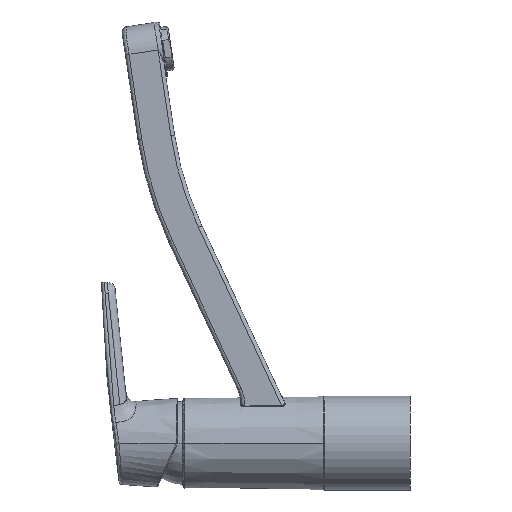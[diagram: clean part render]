
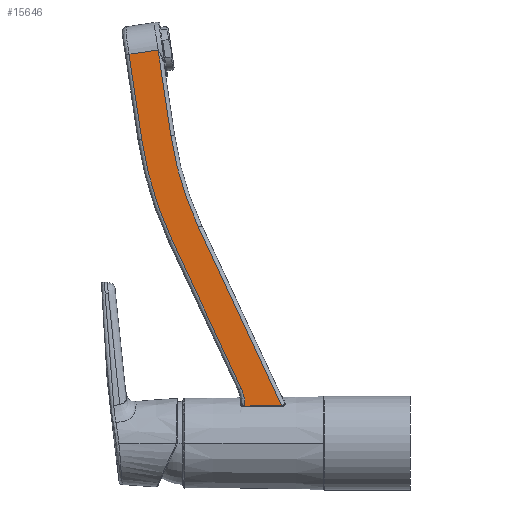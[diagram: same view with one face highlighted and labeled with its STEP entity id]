
A CAD part, left-side view. The second image highlights one B-rep face of the part: STEP entity #15646.
In plain terms, the highlighted planar face has unit normal (-1, 0, 0).
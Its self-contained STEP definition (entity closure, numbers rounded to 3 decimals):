
#922 = EDGE_CURVE ( 'NONE', #3938, #23969, #2497, .T. ) ;
#1157 = VERTEX_POINT ( 'NONE', #19001 ) ;
#1570 = LINE ( 'NONE', #24412, #16828 ) ;
#2497 = LINE ( 'NONE', #20834, #23068 ) ;
#3470 = ORIENTED_EDGE ( 'NONE', *, *, #16067, .T. ) ;
#3938 = VERTEX_POINT ( 'NONE', #25384 ) ;
#4042 = ORIENTED_EDGE ( 'NONE', *, *, #21458, .T. ) ;
#4101 = LINE ( 'NONE', #12996, #10984 ) ;
#4600 = ORIENTED_EDGE ( 'NONE', *, *, #25593, .T. ) ;
#4677 = DIRECTION ( 'NONE',  ( 0., -0.989, 0.148 ) ) ;
#5089 = DIRECTION ( 'NONE',  ( 0., 0., -1. ) ) ;
#5133 = VERTEX_POINT ( 'NONE', #6415 ) ;
#5231 = ORIENTED_EDGE ( 'NONE', *, *, #15125, .T. ) ;
#5455 = DIRECTION ( 'NONE',  ( 1., 0., 0. ) ) ;
#5693 = CARTESIAN_POINT ( 'NONE',  ( -71.683, 398.427, 561.388 ) ) ;
#5994 = CARTESIAN_POINT ( 'NONE',  ( -71.683, 417.846, 658.576 ) ) ;
#6185 = DIRECTION ( 'NONE',  ( 1., 0., 0. ) ) ;
#6379 = AXIS2_PLACEMENT_3D ( 'NONE', #19934, #7990, #14020 ) ;
#6415 = CARTESIAN_POINT ( 'NONE',  ( -71.683, 379.549, 520.905 ) ) ;
#6456 = PLANE ( 'NONE',  #18523 ) ;
#7003 = DIRECTION ( 'NONE',  ( 0., 0.423, 0.906 ) ) ;
#7346 = AXIS2_PLACEMENT_3D ( 'NONE', #13027, #5455, #13359 ) ;
#7990 = DIRECTION ( 'NONE',  ( -1., 0., 0. ) ) ;
#8157 = DIRECTION ( 'NONE',  ( 0., 0., -1. ) ) ;
#8220 = VERTEX_POINT ( 'NONE', #15126 ) ;
#9324 = CIRCLE ( 'NONE', #15019, 22. ) ;
#9358 = CARTESIAN_POINT ( 'NONE',  ( -71.683, 370.847, 511.394 ) ) ;
#10450 = CARTESIAN_POINT ( 'NONE',  ( -71.683, 440.628, 702.767 ) ) ;
#10542 = CIRCLE ( 'NONE', #6379, 198. ) ;
#10955 = LINE ( 'NONE', #5693, #17508 ) ;
#10984 = VECTOR ( 'NONE', #13169, 1000. ) ;
#11102 = CARTESIAN_POINT ( 'NONE',  ( -71.683, 402.804, 608.633 ) ) ;
#11145 = CARTESIAN_POINT ( 'NONE',  ( -71.683, 399.488, 511.607 ) ) ;
#11624 = CARTESIAN_POINT ( 'NONE',  ( -71.683, 377.49, 511.285 ) ) ;
#12218 = EDGE_CURVE ( 'NONE', #15367, #21352, #1570, .T. ) ;
#12437 = ORIENTED_EDGE ( 'NONE', *, *, #17764, .T. ) ;
#12765 = EDGE_CURVE ( 'NONE', #5133, #22981, #9324, .T. ) ;
#12996 = CARTESIAN_POINT ( 'NONE',  ( -71.683, 437.154, 679.525 ) ) ;
#13027 = CARTESIAN_POINT ( 'NONE',  ( -71.683, 237.856, 685.55 ) ) ;
#13169 = DIRECTION ( 'NONE',  ( 0., -0.148, -0.989 ) ) ;
#13359 = DIRECTION ( 'NONE',  ( 0., 0., -1. ) ) ;
#13629 = CARTESIAN_POINT ( 'NONE',  ( -71.683, 417.846, 658.576 ) ) ;
#13721 = CARTESIAN_POINT ( 'NONE',  ( -71.683, 357.561, 511.61 ) ) ;
#13795 = DIRECTION ( 'NONE',  ( 0., 0.148, 0.989 ) ) ;
#13836 = ORIENTED_EDGE ( 'NONE', *, *, #24259, .T. ) ;
#13971 = FACE_OUTER_BOUND ( 'NONE', #24114, .T. ) ;
#14020 = DIRECTION ( 'NONE',  ( 0., 0.989, -0.148 ) ) ;
#15019 = AXIS2_PLACEMENT_3D ( 'NONE', #11145, #20921, #5089 ) ;
#15125 = EDGE_CURVE ( 'NONE', #23288, #21352, #17436, .T. ) ;
#15126 = CARTESIAN_POINT ( 'NONE',  ( -71.683, 433.681, 656.283 ) ) ;
#15211 = ORIENTED_EDGE ( 'NONE', *, *, #922, .T. ) ;
#15367 = VERTEX_POINT ( 'NONE', #10450 ) ;
#15646 = ADVANCED_FACE ( 'NONE', ( #13971 ), #6456, .F. ) ;
#16067 = EDGE_CURVE ( 'NONE', #23969, #23288, #22068, .T. ) ;
#16329 = B_SPLINE_CURVE_WITH_KNOTS ( 'NONE', 3,
 ( #11624, #9358, #25278, #13721 ),
 .UNSPECIFIED., .F., .F.,
 ( 4, 4 ),
 ( 0., 1. ),
 .UNSPECIFIED. ) ;
#16828 = VECTOR ( 'NONE', #4677, 1000. ) ;
#17436 = LINE ( 'NONE', #13629, #22706 ) ;
#17508 = VECTOR ( 'NONE', #21526, 1000. ) ;
#17764 = EDGE_CURVE ( 'NONE', #8220, #1157, #10542, .T. ) ;
#18523 = AXIS2_PLACEMENT_3D ( 'NONE', #20098, #6185, #8157 ) ;
#19001 = CARTESIAN_POINT ( 'NONE',  ( -71.683, 417.305, 601.871 ) ) ;
#19934 = CARTESIAN_POINT ( 'NONE',  ( -71.683, 237.855, 685.55 ) ) ;
#20098 = CARTESIAN_POINT ( 'NONE',  ( -71.683, 237.856, 685.55 ) ) ;
#20834 = CARTESIAN_POINT ( 'NONE',  ( -71.683, 380.182, 560.122 ) ) ;
#20921 = DIRECTION ( 'NONE',  ( 1., 0., 0. ) ) ;
#21089 = CARTESIAN_POINT ( 'NONE',  ( -71.682, 424.789, 705.134 ) ) ;
#21352 = VERTEX_POINT ( 'NONE', #21089 ) ;
#21458 = EDGE_CURVE ( 'NONE', #15367, #8220, #4101, .T. ) ;
#21526 = DIRECTION ( 'NONE',  ( 0., -0.423, -0.906 ) ) ;
#22068 = CIRCLE ( 'NONE', #7346, 182. ) ;
#22557 = ORIENTED_EDGE ( 'NONE', *, *, #12218, .F. ) ;
#22706 = VECTOR ( 'NONE', #13795, 1000. ) ;
#22981 = VERTEX_POINT ( 'NONE', #23255 ) ;
#23068 = VECTOR ( 'NONE', #7003, 1000. ) ;
#23255 = CARTESIAN_POINT ( 'NONE',  ( -71.683, 377.49, 511.285 ) ) ;
#23288 = VERTEX_POINT ( 'NONE', #5994 ) ;
#23907 = ORIENTED_EDGE ( 'NONE', *, *, #12765, .T. ) ;
#23969 = VERTEX_POINT ( 'NONE', #11102 ) ;
#24114 = EDGE_LOOP ( 'NONE', ( #15211, #3470, #5231, #22557, #4042, #12437, #4600, #23907, #13836 ) ) ;
#24259 = EDGE_CURVE ( 'NONE', #22981, #3938, #16329, .T. ) ;
#24412 = CARTESIAN_POINT ( 'NONE',  ( -71.683, 422.85, 705.424 ) ) ;
#25278 = CARTESIAN_POINT ( 'NONE',  ( -71.683, 364.204, 511.502 ) ) ;
#25384 = CARTESIAN_POINT ( 'NONE',  ( -71.683, 357.561, 511.61 ) ) ;
#25593 = EDGE_CURVE ( 'NONE', #1157, #5133, #10955, .T. ) ;
